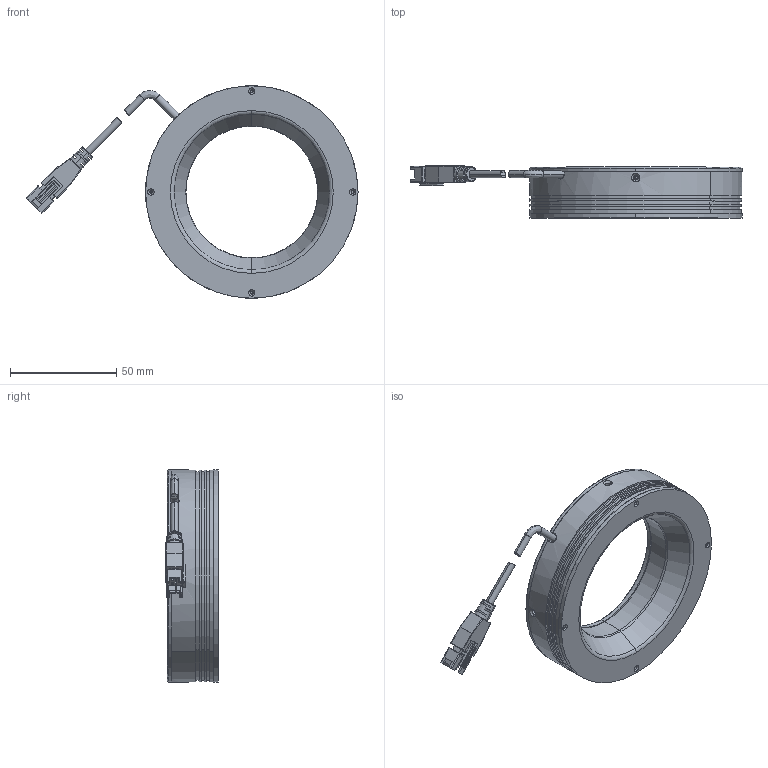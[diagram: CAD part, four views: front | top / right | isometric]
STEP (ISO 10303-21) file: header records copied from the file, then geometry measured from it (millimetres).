
FILE_DESCRIPTION (( 'STEP AP203' ), '1' );
FILE_NAME ('CRT-RL10030-¼òÒ×3DÍ¼.STEP', '2021-12-18T07:39:45', ( 'Admin' ), ( '' ), 'SwSTEP 2.0', 'SolidWorks 2018', '' );
FILE_SCHEMA (( 'CONFIG_CONTROL_DESIGN' ));
Length unit declared in the file: millimetre
Products named in the file (1): CRT-RL10030-潠眢3D芞
Bounding box: 156.29 x 24.65 x 100 mm (x, y, z)
Surface area: 34506 mm2 (no closed solid volume)
Topology: 0 solids, 5 shells, 269 faces, 779 edges, 503 vertices
Faces by surface type: plane 114, cylinder 102, cone 24, bspline 20, torus 9
Entity records: 10089 total; most frequent: CARTESIAN_POINT 3060, DIRECTION 1463, ORIENTED_EDGE 1362, EDGE_CURVE 771, AXIS2_PLACEMENT_3D 522, VERTEX_POINT 503, LINE 419, VECTOR 419
